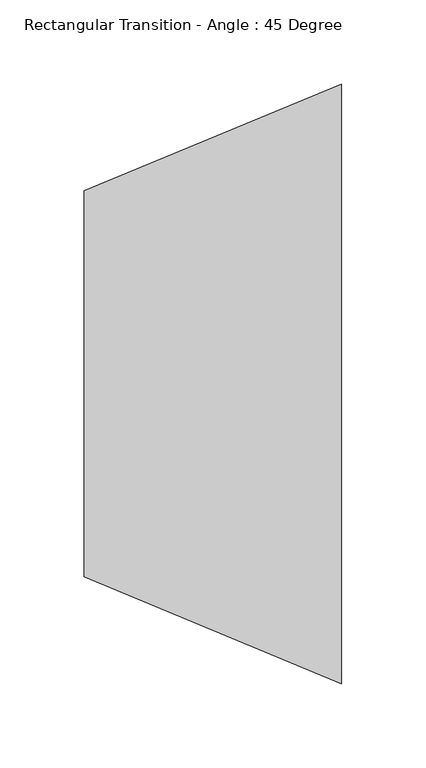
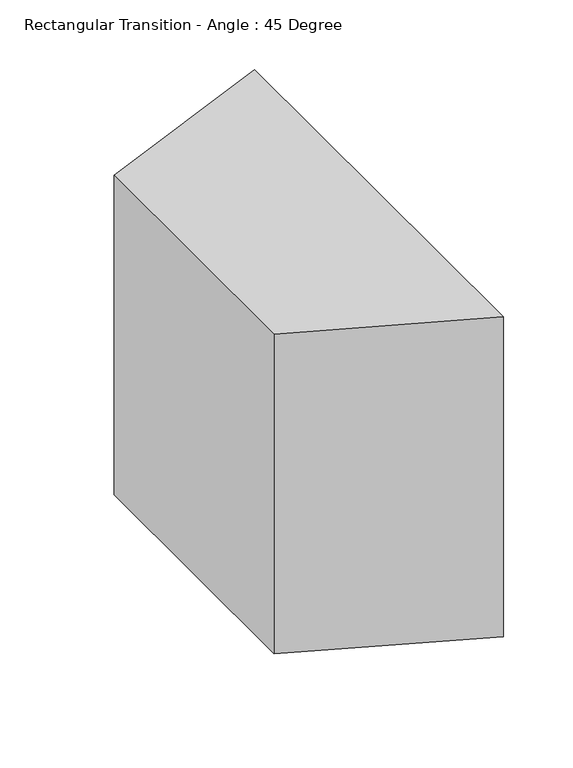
"""IFC4 building model written with IfcOpenShell, lengths in millimetres: duct fitting geometry, Rectangular Transition - Angle : 45 Degree."""

from ifc_helpers import new_model, si_unit, origin, place, context, project, spatial, faceted_brep, source, transform, mapped, element, save


def rectangular_transition_angle_45_degree_493713ce(model_context):
    return source(origin(), model_context, "Body", "Brep", [
        faceted_brep([(152.8197185, -177.8, 139.7), (152.8197185, -177.8, -139.7), (152.8197185, 177.8, -139.7), (152.8197185, 177.8, 139.7), (0.0, -114.5, 139.5), (0.0, 114.5, 139.5), (0.0, 114.5, -139.5), (0.0, -114.5, -139.5)], [[[0, 1, 2, 3]], [[4, 5, 6, 7]], [[4, 7, 1, 0]], [[7, 6, 2, 1]], [[6, 5, 3, 2]], [[5, 4, 0, 3]]]),
    ])


if __name__ == "__main__":
    model = new_model("IFC4")
    model_context = context("Model", 3, world=origin())
    ifc_project = project(units=[si_unit("LENGTHUNIT", "METRE", prefix="MILLI")], contexts=[model_context])
    site = spatial("IfcSite", under=ifc_project)
    building = spatial("IfcBuilding", under=site)
    placement = place(None, origin())
    rectangular_transition_angle_45_degree_shape = rectangular_transition_angle_45_degree_493713ce(model_context)
    element("IfcDuctFitting", 1, ObjectType="Rectangular Transition - Angle : 45 Degree", at=placement, inside=building, context=model_context, shape_type="MappedRepresentation", body=[
        mapped(rectangular_transition_angle_45_degree_shape, transform((0.0, 0.0, 0.0), x_axis=(1.0, 0.0, 0.0), y_axis=(0.0, 1.0, 0.0), z_axis=(0.0, 0.0, 1.0))),
    ])
    save(model, "model.ifc")
